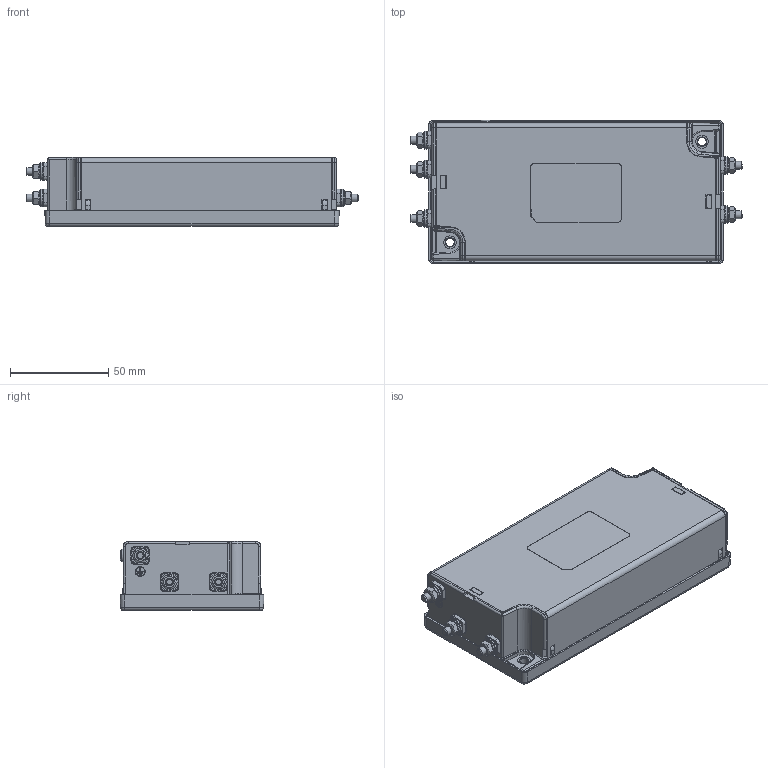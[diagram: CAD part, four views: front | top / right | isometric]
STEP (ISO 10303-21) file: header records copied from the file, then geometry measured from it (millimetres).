
FILE_DESCRIPTION(/* description */ (''),/* implementation_level */ '2;1');
FILE_NAME(/* name */ 'C:\Users\Christian.Ackermann\OneDrive - Schaffner EMV AG\Desktop\UMA_customerSTEP\FN252x-xx-08.stp',/* time_stamp */ '2021-11-30T10:13:56+01:00',/* author */ ('Christian.Ackermann'),/* organization */ (''),/* preprocessor_version */ 'ST-DEVELOPER v18.1',/* originating_system */ 'Autodesk Inventor 2020',/* authorisation */ '');
FILE_SCHEMA (('AUTOMOTIVE_DESIGN { 1 0 10303 214 3 1 1 }'));
Products named in the file (1): FN252x-xx-08
Bounding box: 168.6 x 73 x 35.07 mm (x, y, z)
Volume: 348910.3 mm3; surface area: 54455.6 mm2
Topology: 1 solids, 1 shells, 1492 faces, 3802 edges, 2351 vertices
Faces by surface type: plane 651, cylinder 504, bspline 141, torus 84, cone 70, sphere 42
Full cylindrical faces by diameter (mm): 2 x1, 4 x10, 4.2 x2, 4.3 x5, 6.4 x2, 6.5 x1, 8.39 x4, 8.74 x6, 9 x5
Entity records: 50901 total; most frequent: CARTESIAN_POINT 13056, DIRECTION 7680, ORIENTED_EDGE 7600, EDGE_CURVE 3800, AXIS2_PLACEMENT_3D 2779, VERTEX_POINT 2351, LINE 2122, VECTOR 2122
